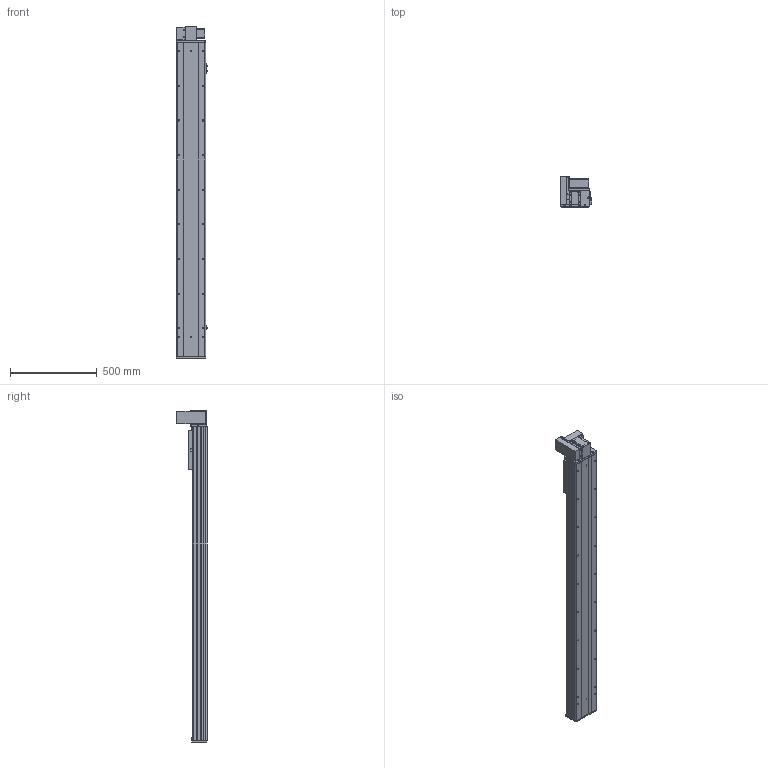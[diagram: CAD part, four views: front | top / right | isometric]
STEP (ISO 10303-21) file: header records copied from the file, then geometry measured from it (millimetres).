
FILE_DESCRIPTION (( 'STEP AP203' ), '1' );
FILE_NAME ('Y170CB-D105-S1500-UL-P400W.STEP', '2020-02-20T02:32:25', ( '微软用户' ), ( '微软中国' ), 'SwSTEP 2.0', 'SolidWorks 2017', '' );
FILE_SCHEMA (( 'CONFIG_CONTROL_DESIGN' ));
Length unit declared in the file: millimetre
Products named in the file (18): Y170CB-陔俋离換覜結え---; --70CB --喘謫眊楊擘啣-; 70B喘謫眊----; 70CB-耜裔啣-; Y1埴倛裔; 70C--詩湍揤踡え-; 17B-耜蚾蟀諉啣----; 70CB--耜裔; 00B-俋欶BM--163; 70C-雄赽釱-奻-; B-源倛裔啣; Y170CB-D105-S1500-UL-P400W; 0C--雄赽釱俋欶-170; 0B-萇儂楊擘啣; 70CB-詩湍--; san松下电机400不带刹车----; Y100-135俋离換覜ん--; 70CB-掛极-
Assembly tree (21 placements, depth 2):
  Y170CB-D105-S1500-UL-P400W
    B-源倛裔啣
    0B-萇儂楊擘啣
    san松下电机400不带刹车----
    70CB-掛极-
    --70CB --喘謫眊楊擘啣-
    70CB-耜裔啣-  x2
    70C--詩湍揤踡え-  x2
    70CB--耜裔
    70C-雄赽釱-奻-
    0C--雄赽釱俋欶-170
    70CB-詩湍--
    Y100-135俋离換覜ん--  x3
    Y170CB-陔俋离換覜結え---
    70B喘謫眊----
    Y1埴倛裔
    17B-耜蚾蟀諉啣----
    00B-俋欶BM--163
Bounding box: 183.5 x 174 x 1916 mm (x, y, z)
Volume: 8507583.2 mm3; surface area: 3060815.6 mm2
Topology: 21 solids, 21 shells, 1031 faces, 2765 edges, 1834 vertices
Faces by surface type: cylinder 545, plane 462, cone 24
Entity records: 32912 total; most frequent: CARTESIAN_POINT 6036, DIRECTION 5354, ORIENTED_EDGE 5012, EDGE_CURVE 2506, AXIS2_PLACEMENT_3D 1968, VERTEX_POINT 1664, VECTOR 1418, LINE 1418
